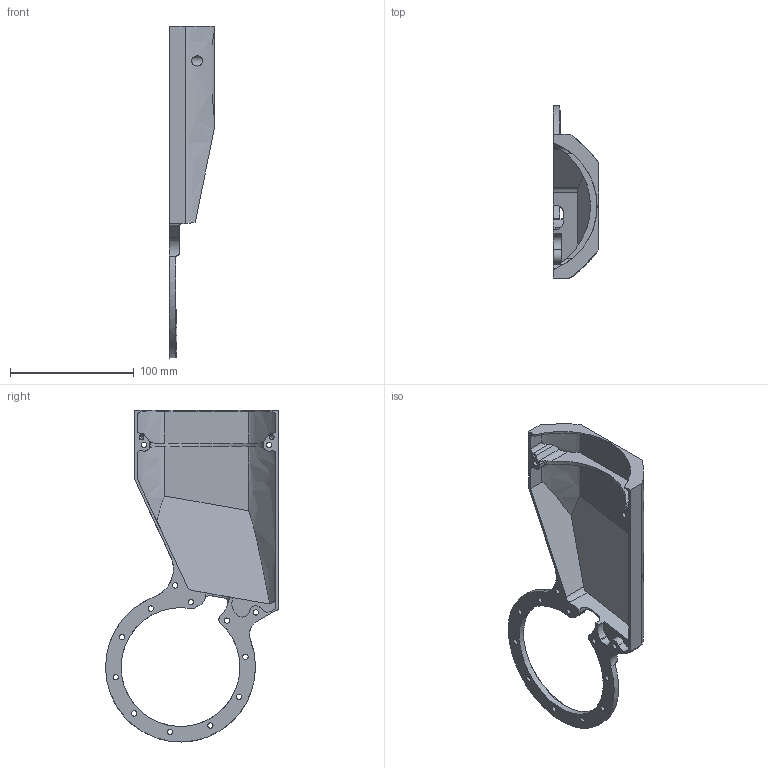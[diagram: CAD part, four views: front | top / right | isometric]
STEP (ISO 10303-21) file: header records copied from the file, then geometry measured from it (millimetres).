
FILE_DESCRIPTION(/* description */ ('STEP AP242 Edition 2','CAx-IF Rec.Pracs.---Representation and Presentation of Product Manufacturing Information (PMI)---4.0---2014-10-13','CAx-IF Rec.Pracs.---3D Tessellated Geometry---0.4---2014-09-14','2;1','CAx-IF Rec.Pracs.---User Defined Attributes---1.5---2016-08-15'),/* implementation_level */ '2;1');
FILE_NAME(/* name */ 'Assy_ForMFG - KD-D-302L_L_Femur_Lower_Idle',/* time_stamp */ '2026-05-15T19:56:36Z',/* author */ (''),/* organization */ (''),/* preprocessor_version */ 'ST-DEVELOPER v20',/* originating_system */ 'ONSHAPE BY PTC INC, 1.215',/* authorisation */ ' ');
FILE_SCHEMA (('AP242_MANAGED_MODEL_BASED_3D_ENGINEERING_MIM_LF { 1 0 10303 442 3 1 4 }'));
Length unit declared in the file: metre
Products named in the file (1): KD-D-302L_L_Femur_Lower_Idle
Bounding box: 36.5 x 139.5 x 267.99 mm (x, y, z)
Volume: 70822.5 mm3; surface area: 67586.7 mm2
Topology: 1 solids, 1 shells, 143 faces, 402 edges, 264 vertices
Faces by surface type: cylinder 78, plane 47, bspline 10, torus 4, cone 4
Full cylindrical faces by diameter (mm): 3 x2, 4.3 x14, 8.25 x8
Entity records: 5355 total; most frequent: CARTESIAN_POINT 1849, ORIENTED_EDGE 732, DIRECTION 663, EDGE_CURVE 366, AXIS2_PLACEMENT_3D 262, VERTEX_POINT 258, FACE_BOUND 206, EDGE_LOOP 204
